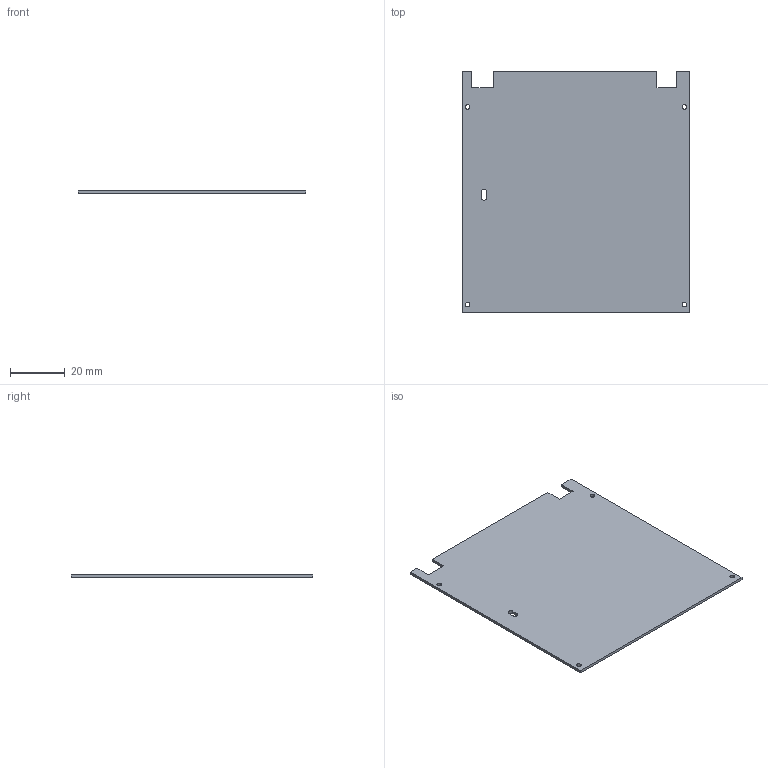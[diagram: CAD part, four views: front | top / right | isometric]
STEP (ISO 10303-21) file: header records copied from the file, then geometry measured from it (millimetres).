
FILE_DESCRIPTION((''),'2;1');
FILE_NAME('SOLAR_CELLS_BOARD_DATA_PORT','2020-03-13T',('g0715'),(''),'PRO/ENGINEER BY PARAMETRIC TECHNOLOGY CORPORATION, 2014090','PRO/ENGINEER BY PARAMETRIC TECHNOLOGY CORPORATION, 2014090','');
FILE_SCHEMA(('CONFIG_CONTROL_DESIGN'));
Length unit declared in the file: millimetre
Products named in the file (1): SOLAR_CELLS_BOARD_DATA_PORT
Bounding box: 83 x 88 x 1 mm (x, y, z)
Volume: 7197.8 mm3; surface area: 14793.2 mm2
Topology: 1 solids, 1 shells, 26 faces, 72 edges, 48 vertices
Faces by surface type: plane 16, cylinder 10
Entity records: 894 total; most frequent: CARTESIAN_POINT 146, DIRECTION 144, ORIENTED_EDGE 144, EDGE_CURVE 72, VECTOR 52, LINE 52, VERTEX_POINT 48, AXIS2_PLACEMENT_3D 46
